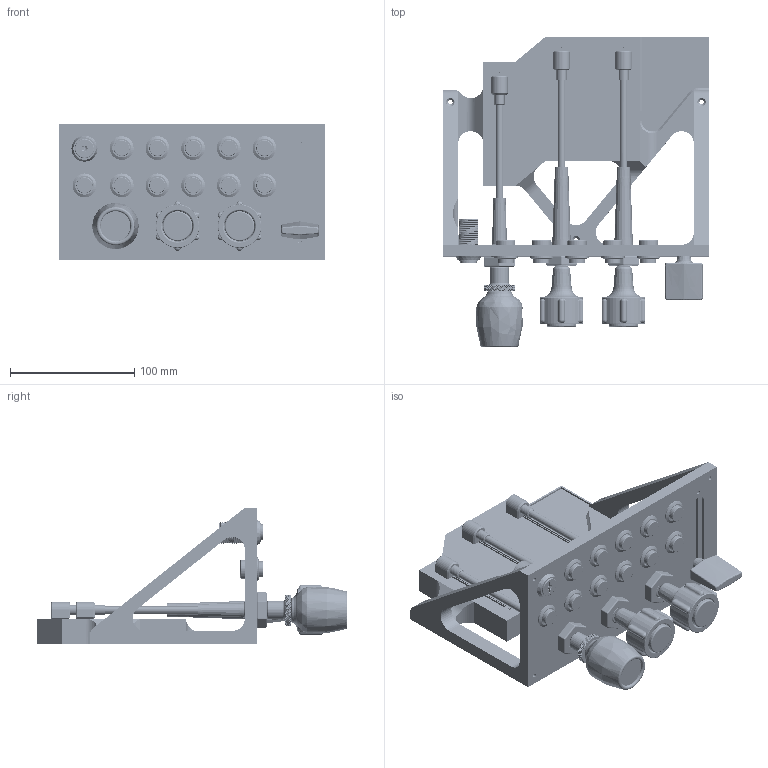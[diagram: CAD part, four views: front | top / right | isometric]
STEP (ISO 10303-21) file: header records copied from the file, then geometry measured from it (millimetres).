
FILE_DESCRIPTION(/* description */ (''),/* implementation_level */ '2;1');
FILE_NAME(/* name */ 'C:/Users/grusv/Downloads/3D Printing/Cadet Throttle Module/Redesign/CadetThrottle v23.step',/* time_stamp */ '2020-09-25T11:08:37-04:00',/* author */ (''),/* organization */ (''),/* preprocessor_version */ 'ST-DEVELOPER v18.1',/* originating_system */ 'Autodesk Translation Framework v9.3.0.1241',/* authorisation */ '');
FILE_SCHEMA (('AUTOMOTIVE_DESIGN { 1 0 10303 214 3 1 1 }'));
Products named in the file (11): Board cover; Throttle v12; Fuel Mixture Venier Remake v35; Linear Pot v3; Flap Knob v5; KeyWay v1; Linear Pot v3 (1); Linear Pot v3 (2); Linear Pot v3 (3); Fuel Mixture Venier Remake v35 (1); Pushbutton v1
Assembly tree (20 placements, depth 2):
  Board cover
    Throttle v12
    Fuel Mixture Venier Remake v35
    Linear Pot v3
    Flap Knob v5
    KeyWay v1
    Linear Pot v3 (1)
    Linear Pot v3 (2)
    Linear Pot v3 (3)
    Fuel Mixture Venier Remake v35 (1)
    Pushbutton v1  x11
Bounding box: 215 x 250 x 110 mm (x, y, z)
Volume: 611060.9 mm3; surface area: 304582.7 mm2
Topology: 53 solids, 53 shells, 3055 faces, 7235 edges, 4384 vertices
Faces by surface type: bspline 1281, cylinder 947, plane 632, torus 107, cone 50, sphere 38
Full cylindrical faces by diameter (mm): 2.529 x24, 3 x1, 3.086 x8, 3.15 x3, 3.2 x18, 3.5 x2, 5.15 x3, 5.5 x2, 5.95 x3, 6 x4, 6.2 x2, 6.4 x85, 7 x4, 8 x2, 8.15 x3, 8.5 x2, 8.7 x3, 9.026 x7, 10.198 x5, 11.65 x3, 12 x2, 12.937 x12, 13 x11, 13.137 x6, 13.5 x11, 13.526 x12, 14.65 x12, 14.85 x6, 15 x4, 15.403 x15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
Entity records: 153371 total; most frequent: CARTESIAN_POINT 96228, ORIENTED_EDGE 14060, DIRECTION 7453, EDGE_CURVE 7030, VERTEX_POINT 4254, B_SPLINE_CURVE_WITH_KNOTS 4064, EDGE_LOOP 3154, FACE_OUTER_BOUND 2935
